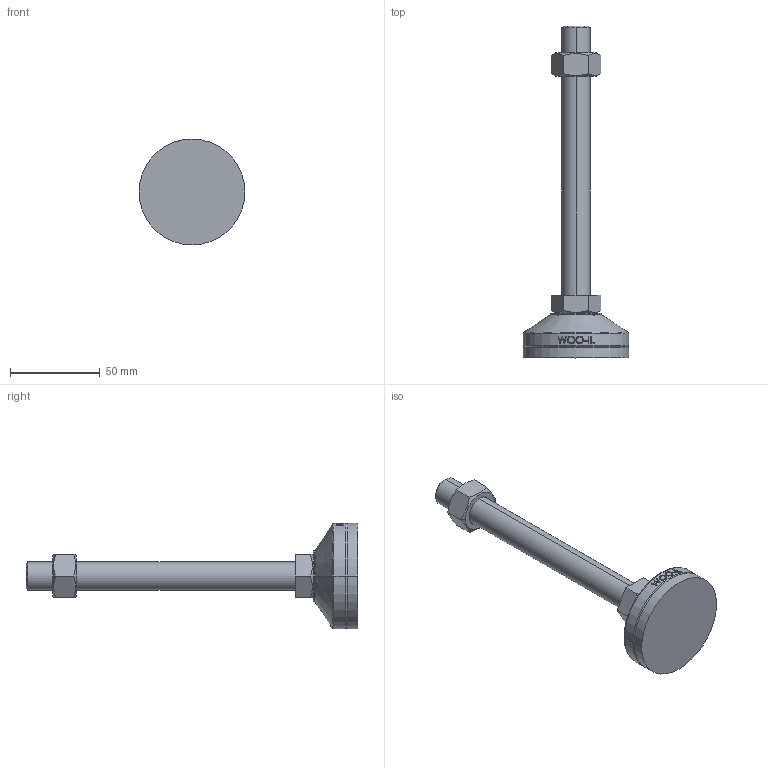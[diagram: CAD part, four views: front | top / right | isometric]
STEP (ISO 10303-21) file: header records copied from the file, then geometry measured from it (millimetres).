
FILE_DESCRIPTION (( 'STEP AP214' ), '1' );
FILE_NAME ('MFR59-M16-150.step', '2021-01-15T08:01:48', ( '' ), ( '' ), 'SwSTEP 2.0', 'SolidWorks 2019', '' );
FILE_SCHEMA (( 'AUTOMOTIVE_DESIGN' ));
Length unit declared in the file: millimetre
Products named in the file (2): MFR59-M16-150
Bounding box: 59 x 185 x 59 mm (x, y, z)
Volume: 93492 mm3; surface area: 25457.6 mm2
Topology: 4 solids, 4 shells, 103 faces, 235 edges, 150 vertices
Faces by surface type: plane 49, cylinder 18, bspline 16, cone 14, torus 6
Entity records: 4363 total; most frequent: CARTESIAN_POINT 2090, ORIENTED_EDGE 470, DIRECTION 417, EDGE_CURVE 235, AXIS2_PLACEMENT_3D 159, VERTEX_POINT 150, EDGE_LOOP 115, ADVANCED_FACE 103
